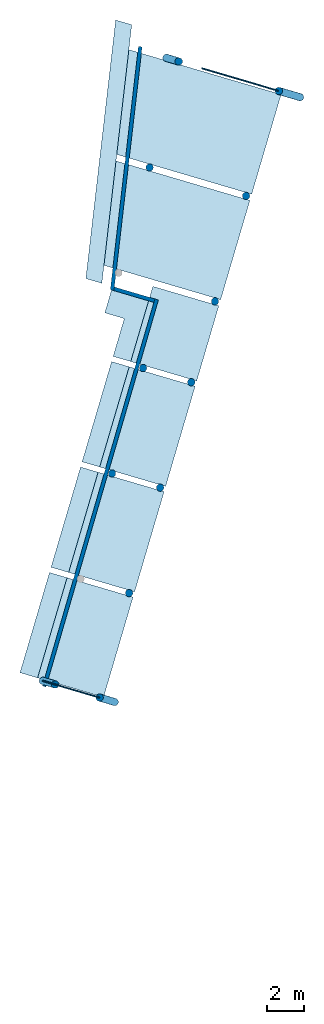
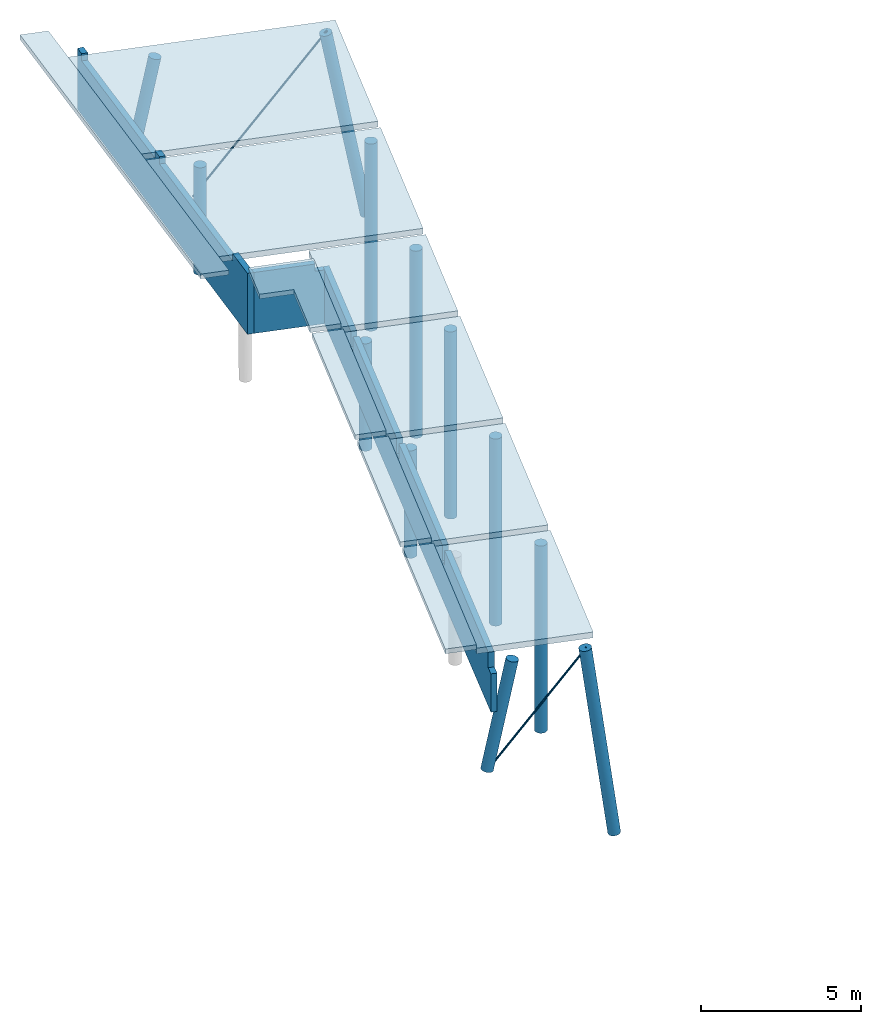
# One storey, part 1 of 4: 12 columns, 8 slabs, 3 walls, 2 beams.
"""IFC2X3 building model written with IfcOpenShell, lengths in millimetres."""

from ifc_helpers import new_model, entity, si_unit, converted_unit, direction, frame, frame_2d, origin, origin_2d_with_axis, place, context, subcontext, project, spatial, polyline, rectangle, circle, outline, extrude, clip, bounded_halfspace, source, transform, mapped, material, material_list, layer, layer_set, layer_usage, type_object, type_shapes, element, save


model = new_model("IFC2X3")

# Units and contexts
model_context = context("Model", 3, precision=0.01, world=origin(), true_north=direction((6.123233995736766e-17, 1.0)))
body_context = subcontext(model_context, "Body", "Model", "MODEL_VIEW")
ifc_project = project(units=[si_unit("LENGTHUNIT", "METRE", prefix="MILLI"), si_unit("AREAUNIT", "SQUARE_METRE"), si_unit("VOLUMEUNIT", "CUBIC_METRE"), converted_unit("PLANEANGLEUNIT", "DEGREE", entity("IfcPlaneAngleMeasure", 0.017453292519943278), si_unit("PLANEANGLEUNIT", "RADIAN"), dimensions=[0, 0, 0, 0, 0, 0, 0])], contexts=[model_context])

# Site, building, storey
site_placement = place(None, origin())
site = spatial("IfcSite", under=ifc_project, at=site_placement, Name="SiteName", CompositionType="ELEMENT")
building_placement = place(site_placement, origin())
building = spatial("IfcBuilding", under=site, at=building_placement, Name="Building Name", CompositionType="ELEMENT")
storey_placement = place(building_placement, origin())
storey = spatial("IfcBuildingStorey", under=building, at=storey_placement, Name="NN 2000", CompositionType="ELEMENT", Elevation=3.401508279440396e-10)

# Columns
ifc_material_1 = material(Name="Concrete - Cast-in-Place")
column_type_1 = type_object("IfcColumnType", Name="Concrete-Circular-Column:406", PredefinedType="COLUMN", material=ifc_material_1)
shared_shape_1 = source(origin(), body_context, "Body", "SweptSolid", [
    extrude(circle(Radius=202.99999999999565, at=frame_2d((7.646811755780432e-14, -2.596925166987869e-13), x_axis=(1.0, 0.0))), frame((-2295.9046892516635, 27612.923501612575, -7120.0), z_axis=(0.0, 0.0, 1.0), x_axis=(0.28246537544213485, 0.9592774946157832, 0.0)), (0.0, 0.0, 1.0), 7140.000000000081),
])
type_shapes(column_type_1, [shared_shape_1])
column_1_placement = place(storey_placement, origin())
element("IfcColumn", 1, at=column_1_placement, inside=storey, type_object=column_type_1, material=ifc_material_1, Name="Concrete-Circular-Column:406", ObjectType="Concrete-Circular-Column:406", context=body_context, shape_type="MappedRepresentation", body=[
    mapped(shared_shape_1, transform((0.0, 0.0, 0.0), scale=1.0)),
])
column_type_2 = type_object("IfcColumnType", Name="Concrete-Circular-Column:406", PredefinedType="COLUMN", material=ifc_material_1)
shared_shape_2 = source(origin(), body_context, "Body", "SweptSolid", [
    extrude(circle(Radius=202.99999999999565, at=frame_2d((9.55851469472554e-14, -3.246156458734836e-13), x_axis=(1.0, 0.0))), frame((-602.2268949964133, 33368.91668369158, -7120.0), z_axis=(0.0, 0.0, 1.0), x_axis=(0.28246537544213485, 0.9592774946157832, 0.0)), (0.0, 0.0, 1.0), 7140.000000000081),
])
type_shapes(column_type_2, [shared_shape_2])
column_2_placement = place(storey_placement, origin())
element("IfcColumn", 2, at=column_2_placement, inside=storey, type_object=column_type_2, material=ifc_material_1, Name="Concrete-Circular-Column:406", ObjectType="Concrete-Circular-Column:406", context=body_context, shape_type="MappedRepresentation", body=[
    mapped(shared_shape_2, transform((0.0, 0.0, 0.0), scale=1.0)),
])
column_type_3 = type_object("IfcColumnType", Name="Concrete-Circular-Column:406", PredefinedType="COLUMN", material=ifc_material_1)
shared_shape_3 = source(origin(), body_context, "Body", "SweptSolid", [
    extrude(circle(Radius=202.99999999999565, at=frame_2d((1.1470217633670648e-13, -3.895387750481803e-13), x_axis=(1.0, 0.0))), frame((1094.2828479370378, 39124.07584083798, -7120.0), z_axis=(0.0, 0.0, 1.0), x_axis=(0.28246537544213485, 0.9592774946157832, 0.0)), (0.0, 0.0, 1.0), 7140.000000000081),
])
type_shapes(column_type_3, [shared_shape_3])
column_3_placement = place(storey_placement, origin())
element("IfcColumn", 3, at=column_3_placement, inside=storey, type_object=column_type_3, material=ifc_material_1, Name="Concrete-Circular-Column:406", ObjectType="Concrete-Circular-Column:406", context=body_context, shape_type="MappedRepresentation", body=[
    mapped(shared_shape_3, transform((0.0, 0.0, 0.0), scale=1.0)),
])
column_type_4 = type_object("IfcColumnType", Name="Concrete-Circular-Column:406", PredefinedType="COLUMN", material=ifc_material_1)
shared_shape_4 = source(origin(), body_context, "Body", "SweptSolid", [
    extrude(circle(Radius=202.99999999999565, at=frame_2d((7.646811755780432e-14, -2.596925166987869e-13), x_axis=(1.0, 0.0))), frame((2393.741606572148, 43536.71755516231, -7170.0), z_axis=(0.0, 0.0, 1.0), x_axis=(0.28246537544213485, 0.9592774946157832, 0.0)), (0.0, 0.0, 1.0), 7140.000000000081),
])
type_shapes(column_type_4, [shared_shape_4])
column_4_placement = place(storey_placement, origin())
element("IfcColumn", 4, at=column_4_placement, inside=storey, type_object=column_type_4, material=ifc_material_1, Name="Concrete-Circular-Column:406", ObjectType="Concrete-Circular-Column:406", context=body_context, shape_type="MappedRepresentation", body=[
    mapped(shared_shape_4, transform((0.0, 0.0, 0.0), scale=1.0)),
])
column_type_5 = type_object("IfcColumnType", Name="Concrete-Circular-Column:406", PredefinedType="COLUMN", material=ifc_material_1)
shared_shape_5 = source(origin(), body_context, "Body", "SweptSolid", [
    extrude(circle(Radius=202.99999999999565, at=frame_2d((1.5293623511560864e-13, -5.193850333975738e-13), x_axis=(1.0, 0.0))), frame((4088.864374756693, 49292.285184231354, -7170.0), z_axis=(0.0, 0.0, 1.0), x_axis=(0.28246537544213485, 0.9592774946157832, 0.0)), (0.0, 0.0, 1.0), 7140.000000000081),
])
type_shapes(column_type_5, [shared_shape_5])
column_5_placement = place(storey_placement, origin())
element("IfcColumn", 5, at=column_5_placement, inside=storey, type_object=column_type_5, material=ifc_material_1, Name="Concrete-Circular-Column:406", ObjectType="Concrete-Circular-Column:406", context=body_context, shape_type="MappedRepresentation", body=[
    mapped(shared_shape_5, transform((0.0, 0.0, 0.0), scale=1.0)),
])
column_type_6 = type_object("IfcColumnType", Name="Concrete-Circular-Column:406", PredefinedType="COLUMN", material=ifc_material_1)
shared_shape_6 = source(origin(), body_context, "Body", "SweptSolid", [
    extrude(circle(Radius=202.99999999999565, at=frame_2d((1.5293623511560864e-13, -5.193850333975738e-13), x_axis=(1.0, 0.0))), frame((-3227.732317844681, 34141.99524209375, -4080.0), z_axis=(0.0, 0.0, 1.0), x_axis=(0.28246537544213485, 0.9592774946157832, 0.0)), (0.0, 0.0, 1.0), 4100.000000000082),
])
type_shapes(column_type_6, [shared_shape_6])
column_6_placement = place(storey_placement, origin())
element("IfcColumn", 6, at=column_6_placement, inside=storey, type_object=column_type_6, material=ifc_material_1, Name="Concrete-Circular-Column:406", ObjectType="Concrete-Circular-Column:406", context=body_context, shape_type="MappedRepresentation", body=[
    mapped(shared_shape_6, transform((0.0, 0.0, 0.0), scale=1.0)),
])
column_type_7 = type_object("IfcColumnType", Name="Concrete-Circular-Column:406", PredefinedType="COLUMN", material=ifc_material_1)
shared_shape_7 = source(origin(), body_context, "Body", "SweptSolid", [
    extrude(circle(Radius=202.99999999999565, at=frame_2d((7.646811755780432e-14, -2.596925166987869e-13), x_axis=(1.0, 0.0))), frame((-1532.9400651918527, 39897.660209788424, -4080.0), z_axis=(0.0, 0.0, 1.0), x_axis=(0.28246537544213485, 0.9592774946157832, 0.0)), (0.0, 0.0, 1.0), 4100.000000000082),
])
type_shapes(column_type_7, [shared_shape_7])
column_7_placement = place(storey_placement, origin())
element("IfcColumn", 7, at=column_7_placement, inside=storey, type_object=column_type_7, material=ifc_material_1, Name="Concrete-Circular-Column:406", ObjectType="Concrete-Circular-Column:406", context=body_context, shape_type="MappedRepresentation", body=[
    mapped(shared_shape_7, transform((0.0, 0.0, 0.0), scale=1.0)),
])
ifc_material_2 = material(Name="<Unnamed>")
ifc_material_list = material_list([ifc_material_2, ifc_material_1])
column_type_8 = type_object("IfcColumnType", Name="Concrete-Circular-Column:406", PredefinedType="COLUMN", material=ifc_material_list)
shared_shape_8 = source(origin(), body_context, "Body", "SweptSolid", [
    extrude(circle(Radius=202.99999999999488, at=frame_2d((0.0, 1.0542146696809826e-13), x_axis=(1.0, 0.0))), frame((-7003.525269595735, 22822.583032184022, -4071.6626794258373), z_axis=(0.1867765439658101, -0.055006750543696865, 0.9808612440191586), x_axis=(0.28250888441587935, 0.959264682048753, 0.0)), (0.0, 0.0, 1.0), 4162.999999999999),
])
type_shapes(column_type_8, [shared_shape_8])
column_8_placement = place(storey_placement, origin())
element("IfcColumn", 8, at=column_8_placement, inside=storey, type_object=column_type_8, material=ifc_material_1, Name="Concrete-Circular-Column:406", ObjectType="Concrete-Circular-Column:406", context=body_context, shape_type="MappedRepresentation", body=[
    mapped(shared_shape_8, transform((0.0, 0.0, 0.0), scale=1.0)),
])
column_type_9 = type_object("IfcColumnType", Name="Concrete-Circular-Column:406", PredefinedType="COLUMN", material=ifc_material_list)
shared_shape_9 = source(origin(), body_context, "Body", "SweptSolid", [
    extrude(circle(Radius=202.9999999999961, at=origin_2d_with_axis()), frame((-3082.6718309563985, 21668.051079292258, -7144.791666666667), z_axis=(-0.12358226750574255, 0.036395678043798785, 0.9916666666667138), x_axis=(-0.28250888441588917, -0.9592646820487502, 0.0)), (0.0, 0.0, 1.0), 7250.000000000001),
])
type_shapes(column_type_9, [shared_shape_9])
column_9_placement = place(storey_placement, origin())
element("IfcColumn", 9, at=column_9_placement, inside=storey, type_object=column_type_9, material=ifc_material_1, Name="Concrete-Circular-Column:406", ObjectType="Concrete-Circular-Column:406", context=body_context, shape_type="MappedRepresentation", body=[
    mapped(shared_shape_9, transform((0.0, 0.0, 0.0), scale=1.0)),
])
column_type_10 = type_object("IfcColumnType", Name="Concrete-Circular-Column:406", PredefinedType="COLUMN", material=ifc_material_list)
shared_shape_10 = source(origin(), body_context, "Body", "SweptSolid", [
    extrude(circle(Radius=202.9999999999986, at=frame_2d((6.1183916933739e-13, -2.2392430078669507e-12), x_axis=(1.0, 0.0))), frame((7038.17612553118, 54678.487016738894, -7115.082644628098), z_axis=(-0.17368955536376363, 0.051152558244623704, 0.983471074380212), x_axis=(-0.2825088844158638, -0.9592646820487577, 0.0)), (0.0, 0.0, 1.0), 7250.000000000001),
])
type_shapes(column_type_10, [shared_shape_10])
column_10_placement = place(storey_placement, origin())
element("IfcColumn", 10, at=column_10_placement, inside=storey, type_object=column_type_10, material=ifc_material_1, Name="Concrete-Circular-Column:406", ObjectType="Concrete-Circular-Column:406", context=body_context, shape_type="MappedRepresentation", body=[
    mapped(shared_shape_10, transform((0.0, 0.0, 0.0), scale=1.0)),
])
column_type_11 = type_object("IfcColumnType", Name="Concrete-Circular-Column:406", PredefinedType="COLUMN", material=ifc_material_list)
shared_shape_11 = source(origin(), body_context, "Body", "SweptSolid", [
    extrude(circle(Radius=202.99999999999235, at=frame_2d((-9.368787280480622e-13, 3.2257282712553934e-12), x_axis=(1.0, 0.0))), frame((-262.13394701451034, 56829.08514917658, -4071.6626794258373), z_axis=(0.18677654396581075, -0.05500675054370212, 0.9808612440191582), x_axis=(-0.28250888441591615, -0.9592646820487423, 0.0)), (0.0, 0.0, 1.0), 4163.0),
])
type_shapes(column_type_11, [shared_shape_11])
column_11_placement = place(storey_placement, origin())
element("IfcColumn", 11, at=column_11_placement, inside=storey, type_object=column_type_11, material=ifc_material_1, Name="Concrete-Circular-Column:406", ObjectType="Concrete-Circular-Column:406", context=body_context, shape_type="MappedRepresentation", body=[
    mapped(shared_shape_11, transform((0.0, 0.0, 0.0), scale=1.0)),
])
column_type_12 = type_object("IfcColumnType", Name="Concrete-Circular-Column:406", PredefinedType="COLUMN", material=ifc_material_1)
shared_shape_12 = source(origin(), body_context, "Body", "SweptSolid", [
    extrude(circle(Radius=202.99999999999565, at=frame_2d((1.1470217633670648e-13, -3.895387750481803e-13), x_axis=(1.0, 0.0))), frame((-1178.2865803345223, 50843.22934977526, -4130.0), z_axis=(0.0, 0.0, 1.0), x_axis=(0.28246537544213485, 0.9592774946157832, 0.0)), (0.0, 0.0, 1.0), 4100.000000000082),
])
type_shapes(column_type_12, [shared_shape_12])
column_12_placement = place(storey_placement, origin())
element("IfcColumn", 12, at=column_12_placement, inside=storey, type_object=column_type_12, material=ifc_material_1, Name="Concrete-Circular-Column:406", ObjectType="Concrete-Circular-Column:406", context=body_context, shape_type="MappedRepresentation", body=[
    mapped(shared_shape_12, transform((0.0, 0.0, 0.0), scale=1.0)),
])

# Beams
ifc_material_3 = material(Name="Structural Framing Fireproofing")
beam_type = type_object("IfcBeamType", Name="Beam KR Solid:KR 70", PredefinedType="NOTDEFINED")
beam_1_placement = place(storey_placement, frame((-3978.6432703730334, 21931.919745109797, 44.79166666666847), z_axis=(0.812223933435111, 0.12336200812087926, -0.5701526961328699), x_axis=(-0.5833457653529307, 0.17176361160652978, -0.7938545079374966)))
element("IfcBeam", 13, at=beam_1_placement, inside=storey, type_object=beam_type, material=ifc_material_3, Name="Beam KR Solid:KR 70", ObjectType="Beam KR Solid:KR 70", context=body_context, shape_type="SweptSolid", body=[
    extrude(circle(Radius=35.00000000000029, at=frame_2d((3.0586219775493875e-13, 1.4934236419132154e-12), x_axis=(1.0, 0.0))), frame((-28.079984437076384, -12.171466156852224, 32.815475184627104), z_axis=(1.0, 0.0, 0.0), x_axis=(0.0, 0.9375850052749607, 0.3477561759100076)), (0.0, 0.0, 1.0), 5251.631446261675),
])
beam_2_placement = place(storey_placement, frame((5811.354654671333, 55039.79289153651, 116.76627645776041), z_axis=(0.812223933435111, 0.12336200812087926, -0.5701526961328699), x_axis=(-0.5833457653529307, 0.17176361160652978, -0.7938545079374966)))
element("IfcBeam", 14, at=beam_2_placement, inside=storey, type_object=beam_type, material=ifc_material_3, Name="Beam KR Solid:KR 70", ObjectType="Beam KR Solid:KR 70", context=body_context, shape_type="SweptSolid", body=[
    extrude(circle(Radius=35.00000000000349, at=frame_2d((-3.0586219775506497e-13, -1.8432517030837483e-12), x_axis=(1.0, 0.0))), frame((36.87499381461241, -12.171466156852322, 32.81547518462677), z_axis=(1.0, 0.0, 0.0), x_axis=(0.0, 0.9375850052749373, 0.34775617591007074)), (0.0, 0.0, 1.0), 7074.130300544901),
])

# Slabs
ifc_layer_1 = layer(ifc_material_1, 220.0)
ifc_layer_set_1 = layer_set([ifc_layer_1], Name="Floor:Prefab 220")
ifc_layer_usage_1 = layer_usage(ifc_layer_set_1, "AXIS3", "POSITIVE", 0.0)
slab_type_1 = type_object("IfcSlabType", Name="Floor:Prefab 220", PredefinedType="FLOOR", material=ifc_layer_set_1)
slab_1_placement = place(storey_placement, frame((-7291.886689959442, 21925.21018354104, 320.0)))
element("IfcSlab", 15, at=slab_1_placement, inside=storey, type_object=slab_type_1, material=ifc_layer_usage_1, Name="Floor:Prefab 220", ObjectType="Floor:Prefab 220", PredefinedType="FLOOR", context=body_context, shape_type="SweptSolid", body=[
    extrude(outline(polyline([(2682.412368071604, -11146.195433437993), (-918.7855795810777, -12206.591133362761), (691.2670921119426, -17674.47296023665), (4292.718106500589, -16614.021428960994), (2682.412368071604, -11146.195433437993)])), frame((4292.718106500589, 17674.47296023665, 220.0), z_axis=(0.0, 0.0, -1.0), x_axis=(-1.0, 0.0, 0.0)), (0.0, 0.0, 1.0), 220.0),
])
slab_2_placement = place(storey_placement, frame((-7291.886689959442, 21925.21018354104, 320.0)))
element("IfcSlab", 16, at=slab_2_placement, inside=storey, type_object=slab_type_1, material=ifc_layer_usage_1, Name="Floor:Prefab 220:2", ObjectType="Floor:Prefab 220", PredefinedType="FLOOR", context=body_context, shape_type="SweptSolid", body=[
    extrude(outline(polyline([(987.3516433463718, -5390.5821523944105), (-2613.7917950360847, -6451.13930041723), (-1003.7795895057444, -11918.882860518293), (2597.65967656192, -10858.415939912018), (987.3516433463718, -5390.5821523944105)])), frame((4292.718106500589, 17674.47296023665, 220.0), z_axis=(0.0, 0.0, -1.0), x_axis=(-1.0, 0.0, 0.0)), (0.0, 0.0, 1.0), 220.0),
])
slab_3_placement = place(storey_placement, frame((-7291.886689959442, 21925.21018354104, 320.0)))
element("IfcSlab", 17, at=slab_3_placement, inside=storey, type_object=slab_type_1, material=ifc_layer_usage_1, Name="Floor:Prefab 220:3", ObjectType="Floor:Prefab 220", PredefinedType="FLOOR", context=body_context, shape_type="SweptSolid", body=[
    extrude(outline(polyline([(-707.6704387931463, 364.9828437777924), (-4308.3300733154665, -695.3996564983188), (-2698.260829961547, -6163.27649021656), (902.585256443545, -5102.839080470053), (-707.6704387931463, 364.9828437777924)])), frame((4292.718106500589, 17674.47296023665, 220.0), z_axis=(0.0, 0.0, -1.0), x_axis=(-1.0, 0.0, 0.0)), (0.0, 0.0, 1.0), 220.0),
])
slab_4_placement = place(storey_placement, frame((-7291.886689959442, 21925.21018354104, 320.0)))
element("IfcSlab", 18, at=slab_4_placement, inside=storey, type_object=slab_type_1, material=ifc_layer_usage_1, Name="Floor:Prefab 220:4", ObjectType="Floor:Prefab 220", PredefinedType="FLOOR", context=body_context, shape_type="SweptSolid", body=[
    extrude(outline(polyline([(-2000.1587468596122, 4753.57034215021), (-5601.438039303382, 3692.9731843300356), (-4393.919615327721, -407.8665969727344), (-792.4543265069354, 652.7853378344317), (-2000.1587468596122, 4753.57034215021)])), frame((4292.718106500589, 17674.47296023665, 220.0), z_axis=(0.0, 0.0, -1.0), x_axis=(-1.0, 0.0, 0.0)), (0.0, 0.0, 1.0), 220.0),
])
slab_5_placement = place(storey_placement, frame((-7291.886689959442, 21925.21018354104, 320.0)))
element("IfcSlab", 19, at=slab_5_placement, inside=storey, type_object=slab_type_1, material=ifc_layer_usage_1, Name="Floor:Prefab 220:5", ObjectType="Floor:Prefab 220", PredefinedType="FLOOR", context=body_context, shape_type="SweptSolid", body=[
    extrude(outline(polyline([(11.43075058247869, 11600.731244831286), (-7296.417163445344, 9448.528625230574), (-5700.563112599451, 4028.877659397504), (669.1451269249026, 5904.4827049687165), (11.43075058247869, 11600.731244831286)])), frame((4292.718106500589, 17674.47296023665, 220.0), z_axis=(0.0, 0.0, -1.0), x_axis=(-1.0, 0.0, 0.0)), (0.0, 0.0, 1.0), 220.0),
])
slab_6_placement = place(storey_placement, frame((-7291.886689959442, 21925.21018354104, 320.0)))
element("IfcSlab", 20, at=slab_6_placement, inside=storey, type_object=slab_type_1, material=ifc_layer_usage_1, Name="Floor:Prefab 220:6", ObjectType="Floor:Prefab 220", PredefinedType="FLOOR", context=body_context, shape_type="SweptSolid", body=[
    extrude(outline(polyline([(-29.30085760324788, 11953.49434687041), (-689.913867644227, 17674.847002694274), (-8998.637441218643, 15228.333471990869), (-7395.64461248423, 9784.427498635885), (-29.30085760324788, 11953.49434687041)])), frame((4292.718106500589, 17674.47296023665, 220.0), z_axis=(0.0, 0.0, -1.0), x_axis=(-1.0, 0.0, 0.0)), (0.0, 0.0, 1.0), 220.0),
])
ifc_layer_2 = layer(ifc_material_1, 180.0)
ifc_layer_set_2 = layer_set([ifc_layer_2], Name="Floor:Betong 180")
ifc_layer_usage_2 = layer_usage(ifc_layer_set_2, "AXIS3", "POSITIVE", 0.0)
slab_type_2 = type_object("IfcSlabType", Name="Floor:Betong 180", PredefinedType="FLOOR", material=ifc_layer_set_2)
slab_7_placement = place(storey_placement, origin())
element("IfcSlab", 21, at=slab_7_placement, inside=storey, type_object=slab_type_2, material=ifc_layer_usage_2, Name="Floor:Betong 180", ObjectType="Floor:Betong 180", PredefinedType="FLOOR", context=body_context, shape_type="SweptSolid", body=[
    extrude(outline(polyline([(-7026.180956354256, -450.0), (7181.995532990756, -450.0), (7026.157721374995, 450.0), (-7181.972298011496, 450.0), (-7026.180956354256, -450.0)])), frame((-3405.051606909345, 51707.38852890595, 670.0), z_axis=(0.0, 0.0, -1.0), x_axis=(-0.11470240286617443, -0.9933998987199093, 0.0)), (0.0, 0.0, 1.0), 179.99999999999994),
])
ifc_layer_3 = layer(ifc_material_1, 180.0)
ifc_layer_set_3 = layer_set([ifc_layer_3], Name="Floor:Påstøp 180")
ifc_layer_usage_3 = layer_usage(ifc_layer_set_3, "AXIS3", "POSITIVE", 0.0)
slab_type_3 = type_object("IfcSlabType", Name="Floor:Påstøp 180", PredefinedType="FLOOR", material=ifc_layer_set_3)
slab_8_placement = place(storey_placement, origin())
element("IfcSlab", 22, at=slab_8_placement, inside=storey, type_object=slab_type_3, material=ifc_layer_usage_3, Name="Floor:Påstøp 180", ObjectType="Floor:Påstøp 180", PredefinedType="FLOOR", context=body_context, shape_type="SweptSolid", body=[
    extrude(rectangle(XDim=5699.848580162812, YDim=999.9999999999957, at=frame_2d((569.9848580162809, -99.1320643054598), x_axis=(1.0, 0.0))), frame((-7222.45447898, 25342.17497446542, 490.0), z_axis=(0.0, 0.0, 1.0), x_axis=(0.2825088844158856, 0.9592646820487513, 0.0)), (0.0, 0.0, 1.0), 179.99999999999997),
    extrude(outline(polyline([(-216.66026708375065, 35.9863081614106), (1933.3205322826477, 35.986308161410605), (1933.3205322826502, 1035.9863081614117), (-1716.6602651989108, 1035.9863081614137), (-1716.6602651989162, -1071.9726163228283), (-216.66026708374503, -1071.972616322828), (-216.66026708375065, 35.9863081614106)])), frame((-2654.319106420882, 42399.70992432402, 490.0), z_axis=(0.0, 0.0, 1.0), x_axis=(-0.2825088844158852, -0.9592646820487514, 0.0)), (0.0, 0.0, 1.0), 179.99999999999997),
    extrude(rectangle(XDim=5700.157647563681, YDim=999.9999999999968, at=frame_2d((-2.2737367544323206e-13, 5.115907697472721e-13), x_axis=(1.0, 0.0))), frame((-5271.280618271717, 31616.526708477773, 490.0), z_axis=(0.0, 0.0, 1.0), x_axis=(0.28250888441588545, 0.9592646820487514, 0.0)), (0.0, 0.0, 1.0), 179.99999999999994),
    extrude(rectangle(XDim=5699.842340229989, YDim=999.9999999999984, at=frame_2d((0.0, 5.115907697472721e-13), x_axis=(1.0, 0.0))), frame((-3576.227313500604, 37372.11479491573, 490.0), z_axis=(0.0, 0.0, 1.0), x_axis=(0.28250888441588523, 0.9592646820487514, 0.0)), (0.0, 0.0, 1.0), 179.99999999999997),
])

# Walls
ifc_material_4 = material(Name="Sprengstein")
ifc_layer_4 = layer(ifc_material_4, 200.0)
ifc_layer_set_4 = layer_set([ifc_layer_4], Name="Basic Wall:Natursteinsmur")
ifc_layer_usage_4 = layer_usage(ifc_layer_set_4, "AXIS2", "NEGATIVE", 100.0)
wall_type = type_object("IfcWallType", Name="Basic Wall:Natursteinsmur", PredefinedType="STANDARD", material=ifc_layer_set_4)
wall_1_placement = place(storey_placement, frame((-3222.9568910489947, 44130.327316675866, -1730.0), z_axis=(0.0, 0.0, 1.0), x_axis=(0.11470240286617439, 0.9933998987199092, 0.0)))
element("IfcWallStandardCase", 23, at=wall_1_placement, inside=storey, type_object=wall_type, material=ifc_layer_usage_4, Name="Basic Wall:Natursteinsmur", ObjectType="Basic Wall:Natursteinsmur", context=body_context, shape_type="Clipping", body=[
    clip(clip(extrude(outline(polyline([(13396.303569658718, -100.0), (13396.303569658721, 100.0), (34.620298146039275, 100.0), (0.0, -100.0), (202.9742965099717, -100.0), (841.960375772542, -100.0), (1140.1417396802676, -100.0), (13396.303569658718, -100.0)])), origin(), (0.0, 0.0, 1.0), 2325.000000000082), bounded_halfspace(frame((7281.714064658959, -100.0, 2050.0), z_axis=(0.0, 0.0, -1.0), x_axis=(-0.17056964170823, -0.985345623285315, 0.0)), True, frame((7281.714064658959, -100.0, 2050.0)), polyline([(0.0, 0.0), (5759.36848670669, 0.0), (5793.988784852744, 200.0), (34.62128050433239, 200.0), (0.0, 0.0)]))), bounded_halfspace(frame((1192.5126760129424, -100.0, 2050.0), z_axis=(0.0, 0.0, -1.0), x_axis=(-0.17056964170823, -0.985345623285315, 0.0)), True, frame((1192.5126760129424, -100.0, 2050.0)), polyline([(0.0, 0.0), (5734.061840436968, 0.0), (5768.692465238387, 200.0), (34.62139579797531, 200.0), (0.0, 0.0)]))),
])
ifc_layer_usage_5 = layer_usage(ifc_layer_set_4, "AXIS2", "NEGATIVE", 100.0)
wall_2_placement = place(storey_placement, frame((-6930.921235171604, 22514.574464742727, -1730.0), z_axis=(0.0, 0.0, 1.0), x_axis=(0.27904723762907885, 0.9602773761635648, 0.0)))
element("IfcWallStandardCase", 24, at=wall_2_placement, inside=storey, type_object=wall_type, material=ifc_layer_usage_5, Name="Basic Wall:Natursteinsmur", ObjectType="Basic Wall:Natursteinsmur", context=body_context, shape_type="Clipping", body=[
    clip(clip(clip(clip(clip(clip(clip(clip(extrude(outline(polyline([(21999.72892501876, -100.0), (22000.44024955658, 100.0), (21800.438984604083, 100.0), (0.0, 100.0), (0.0, -100.0), (6088.263280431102, -100.0), (6309.78459621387, -100.0), (21999.72892501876, -100.0)])), origin(), (0.0, 0.0, 1.0), 2050.0000000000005), bounded_halfspace(frame((18349.724386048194, -100.0, 2050.0), z_axis=(0.0, 0.0, -1.0), x_axis=(-0.0035613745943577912, -0.9999936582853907, 0.0)), True, frame((18349.724386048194, -100.0, 2050.0)), polyline([(0.0, 0.0), (3650.0045389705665, 0.0), (3650.7158635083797, 200.0), (3450.714598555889, 200.0), (0.7213508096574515, 200.0), (0.0, 0.0)]))), bounded_halfspace(frame((12349.658786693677, -100.0, 2050.0), z_axis=(0.0, 0.0, -1.0), x_axis=(-0.0035613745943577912, -0.9999936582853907, 0.0)), True, frame((12349.658786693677, -100.0, 2050.0)), polyline([(0.0, 0.0), (5700.036905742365, 0.0), (5700.756612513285, 200.0), (0.7197067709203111, 200.0), (0.0, 0.0)]))), bounded_halfspace(frame((6349.645390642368, -100.0, 2050.0), z_axis=(0.0, 0.0, -1.0), x_axis=(-0.0035613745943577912, -0.9999936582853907, 0.0)), True, frame((6349.645390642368, -100.0, 2050.0)), polyline([(0.0, 0.0), (5700.03802517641, 0.0), (5700.759375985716, 200.0), (0.7122877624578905, 200.0), (0.0, 0.0)]))), bounded_halfspace(frame((349.59199387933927, -100.0, 2050.0), z_axis=(0.0, 0.0, -1.0), x_axis=(-0.0035613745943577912, -0.9999936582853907, 0.0)), True, frame((349.59199387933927, -100.0, 2050.0)), polyline([(0.0, 0.0), (5700.051425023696, 0.0), (5700.763704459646, 200.0), (0.7113245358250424, 200.0), (0.0, 0.0)]))), bounded_halfspace(frame((0.0, -100.0, 1464.777662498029), z_axis=(0.0, 0.0, 1.0), x_axis=(0.0, 1.0, 0.0)), False, frame((0.0, -100.0, 1464.777662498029)), polyline([(0.0, 0.0), (349.59199387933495, 0.0), (350.3033184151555, 200.0), (0.0, 200.0), (0.0, 0.0)]))), bounded_halfspace(frame((6049.64341890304, -100.0, 1464.777662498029), z_axis=(0.0, 0.0, 1.0), x_axis=(0.0, 1.0, 0.0)), False, frame((6049.64341890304, -100.0, 1464.777662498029)), polyline([(0.0, 0.0), (38.61986152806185, 0.0), (260.1411773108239, 0.0), (300.0019717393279, 0.0), (300.7142595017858, 200.0), (0.7122794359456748, 200.0), (0.0, 0.0)]))), bounded_halfspace(frame((12049.683415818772, -100.0, 1464.777662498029), z_axis=(0.0, 0.0, 1.0), x_axis=(0.0, 1.0, 0.0)), False, frame((12049.683415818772, -100.0, 1464.777662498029)), polyline([(0.0, 0.0), (299.9753708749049, 0.0), (300.6950776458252, 200.0), (0.7213508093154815, 200.0), (0.0, 0.0)]))), bounded_halfspace(frame((18049.695692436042, -100.0, 1464.777662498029), z_axis=(0.0, 0.0, 1.0), x_axis=(0.0, 1.0, 0.0)), False, frame((18049.695692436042, -100.0, 1464.777662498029)), polyline([(0.0, 0.0), (300.028693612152, 0.0), (300.75004442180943, 200.0), (0.7197067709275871, 200.0), (0.0, 0.0)]))),
])
ifc_layer_usage_6 = layer_usage(ifc_layer_set_4, "AXIS2", "NEGATIVE", 100.0)
wall_3_placement = place(storey_placement, frame((-915.3506154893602, 43572.87542017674, -1730.0), z_axis=(0.0, 0.0, 1.0), x_axis=(-0.9592788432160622, 0.282460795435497, 0.0)))
element("IfcWallStandardCase", 25, at=wall_3_placement, inside=storey, type_object=wall_type, material=ifc_layer_usage_6, Name="Basic Wall:Natursteinsmur", ObjectType="Basic Wall:Natursteinsmur", context=body_context, shape_type="Clipping", body=[
    clip(extrude(outline(polyline([(2307.181839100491, -100.0), (2272.5615409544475, 100.0), (0.0, 100.0), (0.7113245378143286, -100.0), (2307.181839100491, -100.0)])), origin(), (0.0, 0.0, 1.0), 2325.000000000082), bounded_halfspace(frame((0.7113245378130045, -100.0, 2050.0), z_axis=(0.0, 0.0, -1.0), x_axis=(-1.0, 4.774430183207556e-06, 0.0)), True, frame((0.7113245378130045, -100.0, 2050.0)), polyline([(0.0, 0.0), (299.9987356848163, 0.0), (300.008761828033, 200.0), (-0.7113245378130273, 200.0), (0.0, 0.0)]))),
])

save(model, "model.ifc")
